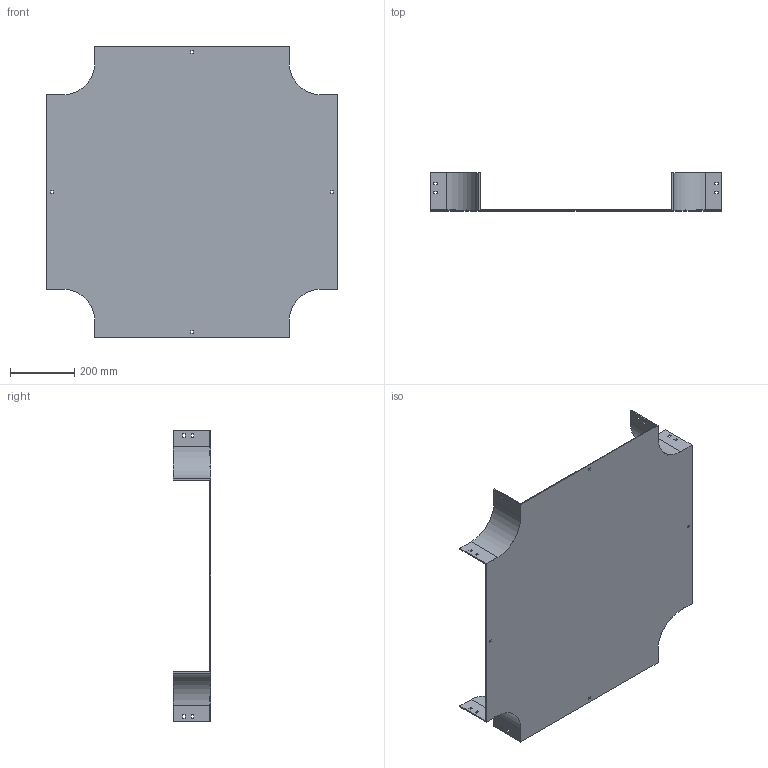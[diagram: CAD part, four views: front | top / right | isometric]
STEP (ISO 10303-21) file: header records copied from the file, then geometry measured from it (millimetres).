
FILE_DESCRIPTION (( 'STEP AP214' ), '1' );
FILE_NAME ('17B1J600.step', '2025-02-21T09:56:53', ( '' ), ( '' ), 'SwSTEP 2.0', 'SolidWorks 2023', '' );
FILE_SCHEMA (( 'AUTOMOTIVE_DESIGN' ));
Length unit declared in the file: millimetre
Products named in the file (1): 17B1J600
Bounding box: 904 x 117.5 x 904 mm (x, y, z)
Volume: 2985247.6 mm3; surface area: 1723440.9 mm2
Topology: 1 solids, 1 shells, 114 faces, 336 edges, 224 vertices
Faces by surface type: plane 106, cylinder 8
Entity records: 3839 total; most frequent: CARTESIAN_POINT 675, ORIENTED_EDGE 672, DIRECTION 582, EDGE_CURVE 336, VECTOR 320, LINE 320, VERTEX_POINT 224, EDGE_LOOP 154
